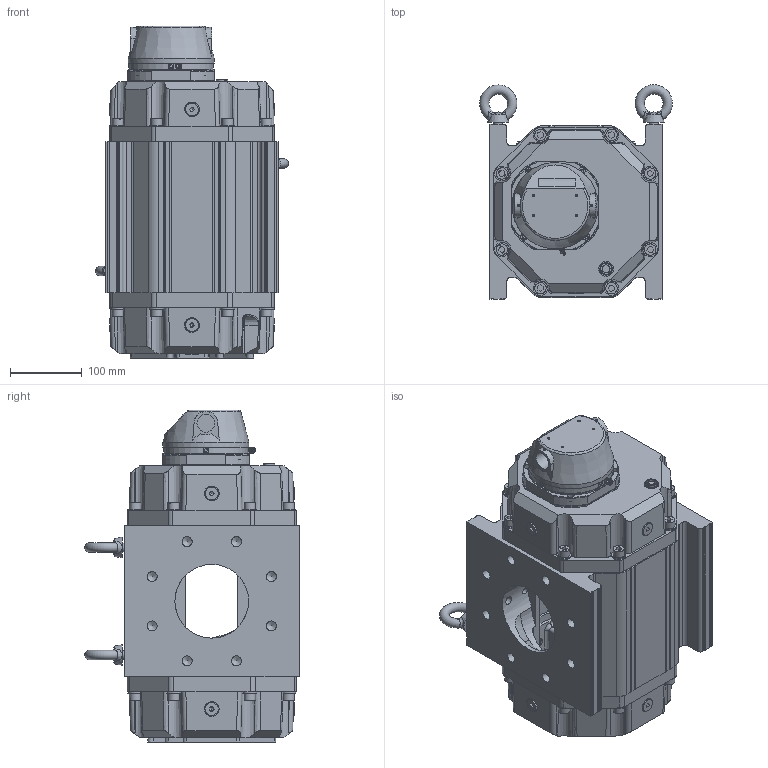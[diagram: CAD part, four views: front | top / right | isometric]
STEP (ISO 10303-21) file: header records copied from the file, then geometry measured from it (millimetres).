
FILE_DESCRIPTION(('STEP AP203'), '1');
FILE_NAME('G160-DN100', '2024-02-08T15:28:07', (''), (''), 'C3D Converter', 'C3D Toolkit', '');
FILE_SCHEMA(('CONFIG_CONTROL_DESIGN'));
Length unit declared in the file: millimetre
Products named in the file (1): G160-4
Bounding box: 269.19 x 299.1 x 463.3 mm (x, y, z)
Volume: 8990262.7 mm3; surface area: 892518.6 mm2
Topology: 5 solids, 8 shells, 1569 faces, 3941 edges, 2462 vertices
Faces by surface type: plane 646, cylinder 423, bspline 195, cone 191, torus 112, sphere 2
Full cylindrical faces by diameter (mm): 2 x12, 2.05 x2, 2.5 x8, 3 x4, 3.175 x1, 3.2 x1, 3.3 x1, 4.2 x4, 4.5 x1, 5.2 x4, 5.774 x9, 6.2 x1, 6.3 x1, 6.35 x4, 7.8 x4, 8 x4, 8.5 x11, 9 x2, 9.4 x4, 10 x2, 10.2 x2, 11 x9, 11.125 x2, 12 x2, 13.096 x13, 14 x18, 15 x1, 16 x21, 17 x2, 17.6 x4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
Entity records: 91353 total; most frequent: CARTESIAN_POINT 45103, ORIENTED_EDGE 6932, DIRECTION 6399, EDGE_CURVE 3466, AXIS2_PLACEMENT_3D 2526, VERTEX_POINT 2400, EDGE_LOOP 2110, FACE_BOUND 1603
